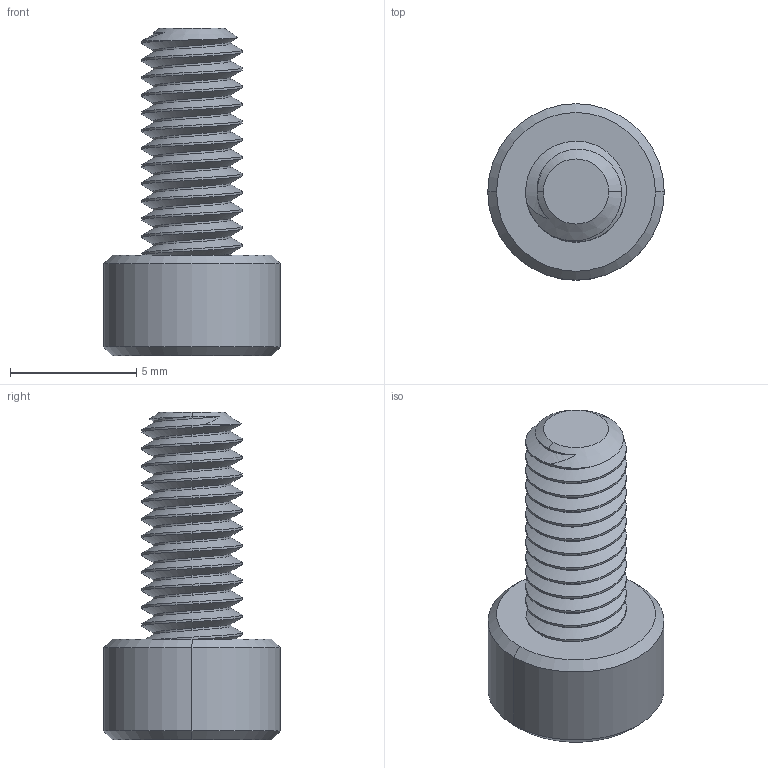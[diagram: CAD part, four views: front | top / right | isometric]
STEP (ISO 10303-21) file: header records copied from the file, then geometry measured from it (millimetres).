
FILE_DESCRIPTION (( 'STEP AP203' ), '1' );
FILE_NAME ('2800-0004-0009.STEP', '2018-07-24T18:33:11', ( '' ), ( '' ), 'SwSTEP 2.0', 'SolidWorks 2016', '' );
FILE_SCHEMA (( 'CONFIG_CONTROL_DESIGN' ));
Length unit declared in the file: millimetre
Products named in the file (1): 2800-0004-0009
Bounding box: 7 x 7 x 13 mm (x, y, z)
Volume: 222.3 mm3; surface area: 348 mm2
Topology: 1 solids, 1 shells, 80 faces, 211 edges, 135 vertices
Faces by surface type: cylinder 55, cone 13, plane 10, bspline 2
Entity records: 3813 total; most frequent: CARTESIAN_POINT 2081, ORIENTED_EDGE 422, DIRECTION 278, EDGE_CURVE 211, VERTEX_POINT 135, AXIS2_PLACEMENT_3D 103, EDGE_LOOP 82, FACE_OUTER_BOUND 80
